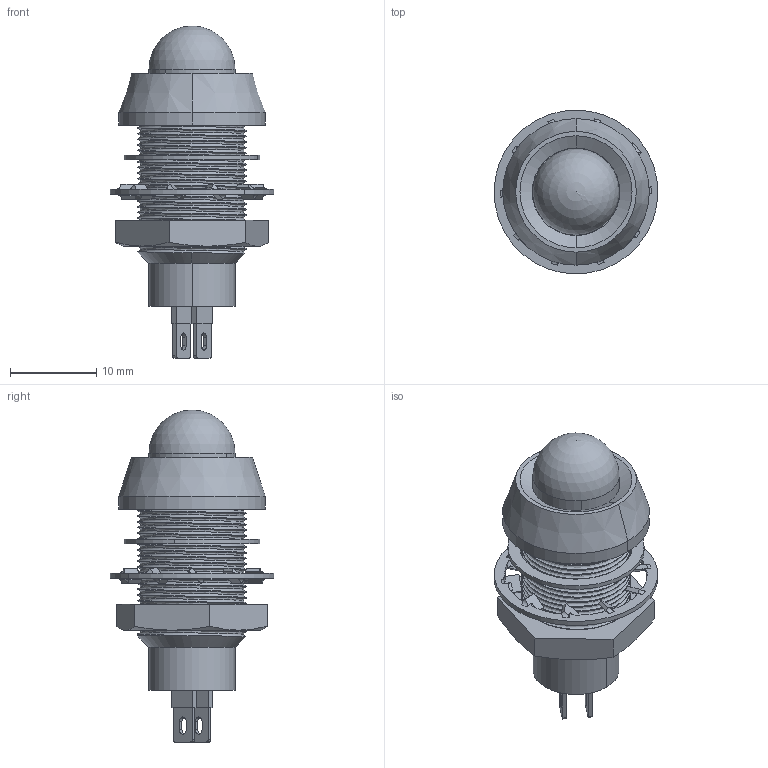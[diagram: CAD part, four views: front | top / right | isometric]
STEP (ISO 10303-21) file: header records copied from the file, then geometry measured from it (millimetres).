
FILE_DESCRIPTION (( 'STEP AP203' ), '1' );
FILE_NAME ('514 Series.STEP', '2016-08-04T13:18:36', ( '' ), ( '' ), 'SwSTEP 2.0', 'SolidWorks 2016', '' );
FILE_SCHEMA (( 'CONFIG_CONTROL_DESIGN' ));
Length unit declared in the file: millimetre
Products named in the file (8): com3324_PARALLEL; 514 Series; COM2226_Threaded; COM2035; Copy of Part5^514series; COM3579; 105d; COM2227
Assembly tree (7 placements, depth 2):
  514 Series
    COM2226_Threaded
    COM2035
    COM2227
    COM3579
    com3324_PARALLEL
    Copy of Part5^514series
    105d
Bounding box: 19 x 19 x 38.5 mm (x, y, z)
Volume: 3244.7 mm3; surface area: 3922.5 mm2
Topology: 9 solids, 9 shells, 308 faces, 836 edges, 551 vertices
Faces by surface type: plane 153, cylinder 115, bspline 23, cone 16, sphere 1
Entity records: 17477 total; most frequent: CARTESIAN_POINT 9541, ORIENTED_EDGE 1666, DIRECTION 1282, EDGE_CURVE 833, VERTEX_POINT 549, VECTOR 472, LINE 472, AXIS2_PLACEMENT_3D 405
